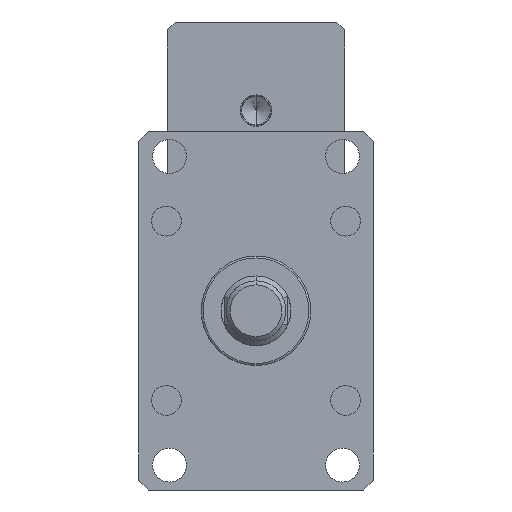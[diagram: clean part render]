
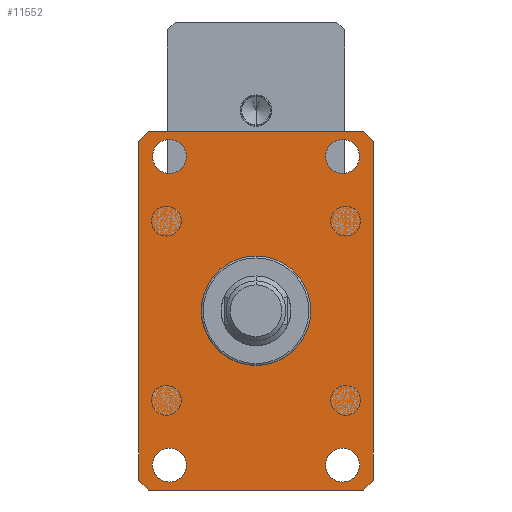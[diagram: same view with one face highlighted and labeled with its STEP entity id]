
A CAD part, front view. The second image highlights one B-rep face of the part: STEP entity #11552.
In plain terms, the highlighted planar face has unit normal (0, -1, 0).
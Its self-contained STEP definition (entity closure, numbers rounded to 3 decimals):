
#26 = FACE_BOUND ( 'NONE', #1336, .T. ) ;
#98 = CARTESIAN_POINT ( 'NONE',  ( 54., -55., -90. ) ) ;
#475 = DIRECTION ( 'NONE',  ( 0., 0., -1. ) ) ;
#486 = CARTESIAN_POINT ( 'NONE',  ( 59., -55., 85. ) ) ;
#534 = PLANE ( 'NONE',  #12203 ) ;
#630 = CIRCLE ( 'NONE', #10109, 8.5 ) ;
#651 = ORIENTED_EDGE ( 'NONE', *, *, #5406, .T. ) ;
#662 = VERTEX_POINT ( 'NONE', #7427 ) ;
#693 = LINE ( 'NONE', #1015, #7959 ) ;
#888 = DIRECTION ( 'NONE',  ( 0.707, 0., 0.707 ) ) ;
#944 = DIRECTION ( 'NONE',  ( 0., 0., 1. ) ) ;
#954 = DIRECTION ( 'NONE',  ( 0., 1., 0. ) ) ;
#1015 = CARTESIAN_POINT ( 'NONE',  ( -54., -55., 90. ) ) ;
#1031 = VECTOR ( 'NONE', #9492, 1000. ) ;
#1044 = CARTESIAN_POINT ( 'NONE',  ( -43.5, -55., 69. ) ) ;
#1067 = EDGE_CURVE ( 'NONE', #6394, #6996, #10860, .T. ) ;
#1180 = EDGE_CURVE ( 'NONE', #4728, #10546, #12446, .T. ) ;
#1255 = CIRCLE ( 'NONE', #4975, 8.5 ) ;
#1336 = EDGE_LOOP ( 'NONE', ( #4742, #7239 ) ) ;
#1339 = EDGE_CURVE ( 'NONE', #8354, #10556, #630, .T. ) ;
#1379 = VERTEX_POINT ( 'NONE', #6931 ) ;
#1489 = DIRECTION ( 'NONE',  ( 0., 0., 1. ) ) ;
#1537 = AXIS2_PLACEMENT_3D ( 'NONE', #12092, #6441, #475 ) ;
#1642 = CARTESIAN_POINT ( 'NONE',  ( 43.5, -55., -69. ) ) ;
#2027 = CARTESIAN_POINT ( 'NONE',  ( 54., -55., 90. ) ) ;
#2107 = DIRECTION ( 'NONE',  ( 0., 1., 0. ) ) ;
#2295 = EDGE_CURVE ( 'NONE', #10988, #9404, #6665, .T. ) ;
#2544 = DIRECTION ( 'NONE',  ( 0., 0., 1. ) ) ;
#2597 = EDGE_CURVE ( 'NONE', #10672, #7941, #3674, .T. ) ;
#2602 = CARTESIAN_POINT ( 'NONE',  ( 43.5, -55., 86. ) ) ;
#2610 = VERTEX_POINT ( 'NONE', #2602 ) ;
#2673 = EDGE_CURVE ( 'NONE', #6996, #6394, #7972, .T. ) ;
#2710 = ORIENTED_EDGE ( 'NONE', *, *, #2597, .T. ) ;
#2729 = ORIENTED_EDGE ( 'NONE', *, *, #1067, .T. ) ;
#3093 = ORIENTED_EDGE ( 'NONE', *, *, #11888, .T. ) ;
#3120 = EDGE_CURVE ( 'NONE', #10546, #5981, #693, .T. ) ;
#3445 = LINE ( 'NONE', #5727, #8342 ) ;
#3606 = LINE ( 'NONE', #7707, #8491 ) ;
#3674 = LINE ( 'NONE', #8508, #1031 ) ;
#3693 = DIRECTION ( 'NONE',  ( 0.707, 0., -0.707 ) ) ;
#3694 = AXIS2_PLACEMENT_3D ( 'NONE', #5704, #12313, #6672 ) ;
#3815 = AXIS2_PLACEMENT_3D ( 'NONE', #8006, #2107, #8963 ) ;
#3849 = DIRECTION ( 'NONE',  ( -0.707, 0., -0.707 ) ) ;
#4139 = DIRECTION ( 'NONE',  ( -0.707, 0., 0.707 ) ) ;
#4451 = VERTEX_POINT ( 'NONE', #6380 ) ;
#4491 = EDGE_CURVE ( 'NONE', #10556, #8354, #1255, .T. ) ;
#4501 = CARTESIAN_POINT ( 'NONE',  ( 59., -55., 90. ) ) ;
#4516 = EDGE_LOOP ( 'NONE', ( #7785, #6402 ) ) ;
#4728 = VERTEX_POINT ( 'NONE', #7822 ) ;
#4742 = ORIENTED_EDGE ( 'NONE', *, *, #12279, .T. ) ;
#4909 = CARTESIAN_POINT ( 'NONE',  ( -43.5, -55., 77.5 ) ) ;
#4975 = AXIS2_PLACEMENT_3D ( 'NONE', #5482, #12115, #6465 ) ;
#4995 = CARTESIAN_POINT ( 'NONE',  ( -59., -55., 85. ) ) ;
#5017 = LINE ( 'NONE', #486, #7313 ) ;
#5183 = VECTOR ( 'NONE', #888, 1000. ) ;
#5406 = EDGE_CURVE ( 'NONE', #4451, #10672, #11968, .T. ) ;
#5422 = CARTESIAN_POINT ( 'NONE',  ( -43.5, -55., 86. ) ) ;
#5482 = CARTESIAN_POINT ( 'NONE',  ( -43.5, -55., 77.5 ) ) ;
#5516 = DIRECTION ( 'NONE',  ( 0., 1., 0. ) ) ;
#5704 = CARTESIAN_POINT ( 'NONE',  ( -43.5, -55., -77.5 ) ) ;
#5727 = CARTESIAN_POINT ( 'NONE',  ( -59., -55., 85. ) ) ;
#5841 = DIRECTION ( 'NONE',  ( 0., -1., 0. ) ) ;
#5918 = DIRECTION ( 'NONE',  ( 0., 0., -1. ) ) ;
#5981 = VERTEX_POINT ( 'NONE', #8355 ) ;
#6324 = EDGE_LOOP ( 'NONE', ( #7376, #7134, #11177, #651, #2710, #3093, #8122, #8144 ) ) ;
#6380 = CARTESIAN_POINT ( 'NONE',  ( -59., -55., -85. ) ) ;
#6394 = VERTEX_POINT ( 'NONE', #9125 ) ;
#6395 = LINE ( 'NONE', #11537, #5183 ) ;
#6402 = ORIENTED_EDGE ( 'NONE', *, *, #4491, .F. ) ;
#6441 = DIRECTION ( 'NONE',  ( 0., -1., 0. ) ) ;
#6465 = DIRECTION ( 'NONE',  ( 0., 0., -1. ) ) ;
#6489 = AXIS2_PLACEMENT_3D ( 'NONE', #6900, #954, #7864 ) ;
#6665 = CIRCLE ( 'NONE', #3694, 8.5 ) ;
#6672 = DIRECTION ( 'NONE',  ( 0., 0., 1. ) ) ;
#6694 = CIRCLE ( 'NONE', #1537, 8.5 ) ;
#6894 = DIRECTION ( 'NONE',  ( 0., 1., 0. ) ) ;
#6900 = CARTESIAN_POINT ( 'NONE',  ( 43.5, -55., -77.5 ) ) ;
#6916 = ORIENTED_EDGE ( 'NONE', *, *, #10907, .F. ) ;
#6931 = CARTESIAN_POINT ( 'NONE',  ( 59., -55., -85. ) ) ;
#6993 = AXIS2_PLACEMENT_3D ( 'NONE', #11514, #5841, #12441 ) ;
#6996 = VERTEX_POINT ( 'NONE', #1642 ) ;
#7016 = FACE_BOUND ( 'NONE', #10580, .T. ) ;
#7134 = ORIENTED_EDGE ( 'NONE', *, *, #12192, .T. ) ;
#7239 = ORIENTED_EDGE ( 'NONE', *, *, #2295, .T. ) ;
#7313 = VECTOR ( 'NONE', #1489, 1000. ) ;
#7376 = ORIENTED_EDGE ( 'NONE', *, *, #3120, .T. ) ;
#7427 = CARTESIAN_POINT ( 'NONE',  ( 43.5, -55., 69. ) ) ;
#7707 = CARTESIAN_POINT ( 'NONE',  ( -59., -55., 85. ) ) ;
#7785 = ORIENTED_EDGE ( 'NONE', *, *, #1339, .F. ) ;
#7806 = ORIENTED_EDGE ( 'NONE', *, *, #2673, .T. ) ;
#7822 = CARTESIAN_POINT ( 'NONE',  ( 59., -55., 85. ) ) ;
#7864 = DIRECTION ( 'NONE',  ( 0., 0., 1. ) ) ;
#7897 = VERTEX_POINT ( 'NONE', #4995 ) ;
#7910 = DIRECTION ( 'NONE',  ( -1., 0., 0. ) ) ;
#7941 = VERTEX_POINT ( 'NONE', #98 ) ;
#7959 = VECTOR ( 'NONE', #7910, 1000. ) ;
#7972 = CIRCLE ( 'NONE', #12440, 8.5 ) ;
#8006 = CARTESIAN_POINT ( 'NONE',  ( -43.5, -55., -77.5 ) ) ;
#8122 = ORIENTED_EDGE ( 'NONE', *, *, #11518, .T. ) ;
#8144 = ORIENTED_EDGE ( 'NONE', *, *, #1180, .T. ) ;
#8290 = CARTESIAN_POINT ( 'NONE',  ( -43.5, -55., -69. ) ) ;
#8342 = VECTOR ( 'NONE', #9552, 1000. ) ;
#8354 = VERTEX_POINT ( 'NONE', #5422 ) ;
#8355 = CARTESIAN_POINT ( 'NONE',  ( -54., -55., 90. ) ) ;
#8491 = VECTOR ( 'NONE', #3849, 1000. ) ;
#8508 = CARTESIAN_POINT ( 'NONE',  ( -54., -55., -90. ) ) ;
#8963 = DIRECTION ( 'NONE',  ( 0., 0., 1. ) ) ;
#9125 = CARTESIAN_POINT ( 'NONE',  ( 43.5, -55., -86. ) ) ;
#9268 = CIRCLE ( 'NONE', #6993, 8.5 ) ;
#9300 = ORIENTED_EDGE ( 'NONE', *, *, #12535, .F. ) ;
#9404 = VERTEX_POINT ( 'NONE', #8290 ) ;
#9492 = DIRECTION ( 'NONE',  ( 1., 0., 0. ) ) ;
#9552 = DIRECTION ( 'NONE',  ( 0., 0., -1. ) ) ;
#9557 = FACE_OUTER_BOUND ( 'NONE', #6324, .T. ) ;
#9852 = FACE_BOUND ( 'NONE', #12063, .T. ) ;
#9943 = CARTESIAN_POINT ( 'NONE',  ( 54., -55., 90. ) ) ;
#10109 = AXIS2_PLACEMENT_3D ( 'NONE', #4909, #11588, #5918 ) ;
#10546 = VERTEX_POINT ( 'NONE', #2027 ) ;
#10556 = VERTEX_POINT ( 'NONE', #1044 ) ;
#10580 = EDGE_LOOP ( 'NONE', ( #7806, #2729 ) ) ;
#10672 = VERTEX_POINT ( 'NONE', #11916 ) ;
#10710 = CIRCLE ( 'NONE', #3815, 8.5 ) ;
#10860 = CIRCLE ( 'NONE', #6489, 8.5 ) ;
#10907 = EDGE_CURVE ( 'NONE', #2610, #662, #9268, .T. ) ;
#10988 = VERTEX_POINT ( 'NONE', #11597 ) ;
#11177 = ORIENTED_EDGE ( 'NONE', *, *, #11748, .T. ) ;
#11514 = CARTESIAN_POINT ( 'NONE',  ( 43.5, -55., 77.5 ) ) ;
#11518 = EDGE_CURVE ( 'NONE', #1379, #4728, #5017, .T. ) ;
#11537 = CARTESIAN_POINT ( 'NONE',  ( 59., -55., -85. ) ) ;
#11552 = ADVANCED_FACE ( 'NONE', ( #12010, #7016, #26, #9557, #9852 ), #534, .F. ) ;
#11588 = DIRECTION ( 'NONE',  ( 0., -1., 0. ) ) ;
#11597 = CARTESIAN_POINT ( 'NONE',  ( -43.5, -55., -86. ) ) ;
#11680 = VECTOR ( 'NONE', #3693, 1000. ) ;
#11748 = EDGE_CURVE ( 'NONE', #7897, #4451, #3445, .T. ) ;
#11888 = EDGE_CURVE ( 'NONE', #7941, #1379, #6395, .T. ) ;
#11916 = CARTESIAN_POINT ( 'NONE',  ( -54., -55., -90. ) ) ;
#11968 = LINE ( 'NONE', #12316, #11680 ) ;
#12010 = FACE_BOUND ( 'NONE', #4516, .T. ) ;
#12063 = EDGE_LOOP ( 'NONE', ( #6916, #9300 ) ) ;
#12092 = CARTESIAN_POINT ( 'NONE',  ( 43.5, -55., 77.5 ) ) ;
#12115 = DIRECTION ( 'NONE',  ( 0., -1., 0. ) ) ;
#12151 = VECTOR ( 'NONE', #4139, 1000. ) ;
#12192 = EDGE_CURVE ( 'NONE', #5981, #7897, #3606, .T. ) ;
#12203 = AXIS2_PLACEMENT_3D ( 'NONE', #4501, #5516, #2544 ) ;
#12279 = EDGE_CURVE ( 'NONE', #9404, #10988, #10710, .T. ) ;
#12313 = DIRECTION ( 'NONE',  ( 0., 1., 0. ) ) ;
#12316 = CARTESIAN_POINT ( 'NONE',  ( -59., -55., -85. ) ) ;
#12440 = AXIS2_PLACEMENT_3D ( 'NONE', #12526, #6894, #944 ) ;
#12441 = DIRECTION ( 'NONE',  ( 0., 0., -1. ) ) ;
#12446 = LINE ( 'NONE', #9943, #12151 ) ;
#12526 = CARTESIAN_POINT ( 'NONE',  ( 43.5, -55., -77.5 ) ) ;
#12535 = EDGE_CURVE ( 'NONE', #662, #2610, #6694, .T. ) ;
